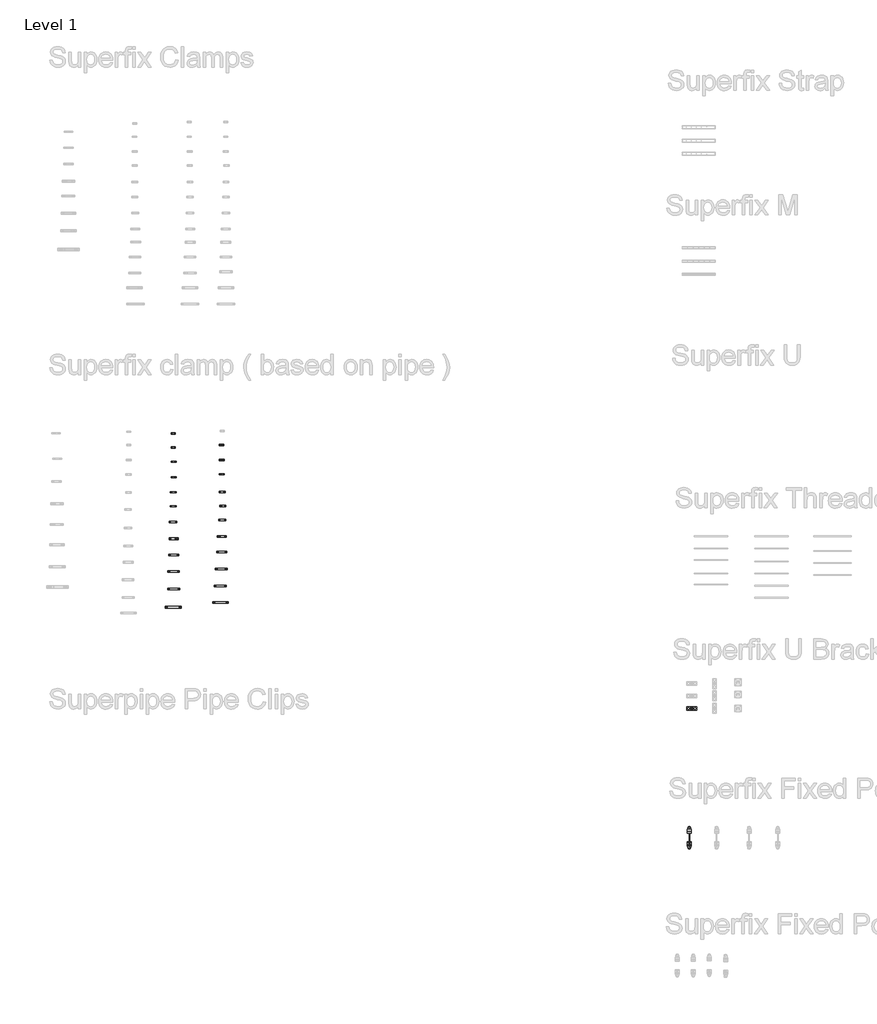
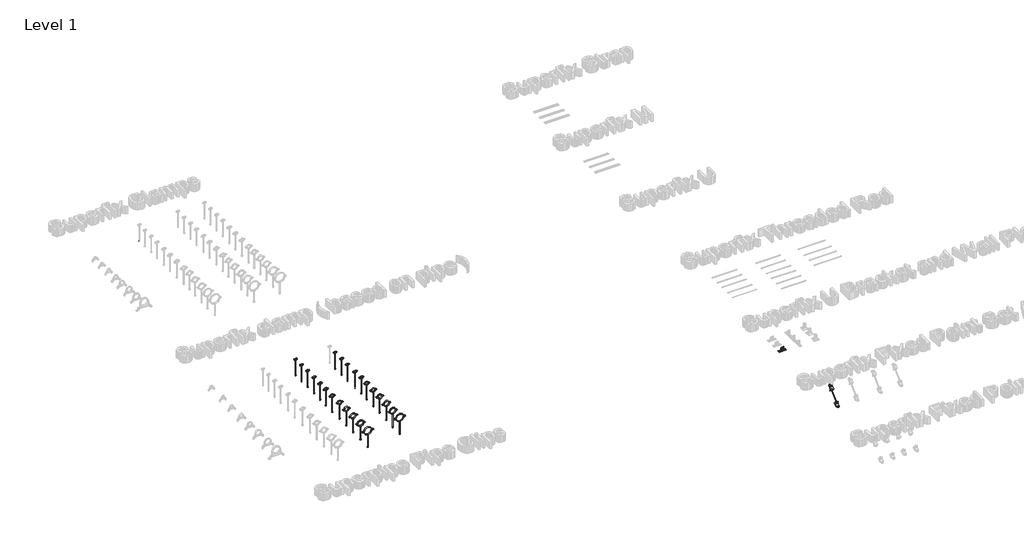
# One storey, part 3 of 32: 140 valves.
"""IFC4 building model written with IfcOpenShell, lengths in millimetres."""

from ifc_helpers import new_model, si_unit, origin, place, context, project, spatial, transform, mapped, element, save
from components import valve_ba4c3353, valve_b86718a5, valve_709cda98, valve_84d33304, valve_ec993703, valve_f37b9a3f, valve_5bac2775, valve_0b170f44, valve_48b51991, valve_4bb747ad, valve_94420c43, valve_e243e0e9, valve_dc8f52aa, valve_8481dcae, valve_a1d0c0c7, valve_bad40d89, valve_098a9345, valve_1406b70b, valve_9e9896a5, valve_00879f87, valve_4dfea500, valve_dfdcf4a3, valve_fad8a5b8, valve_cdfc1e77, valve_540cf7b6, valve_e615a615, valve_7771d33f, valve_f58c43d9, valve_1a4baf8e, valve_0564cfff, valve_fe5dbaab, valve_6bdfe2ac, valve_8158eccd, valve_7bf5ca46, valve_831f7485, valve_ca73bad7, hexagon_nut_galvanized_extra_m10_fcef541f, hexagon_nut_galvanized_extra_m8_53389388, superfix_u_bracket_h_f60a1122, threaded_rod_used_for_fixed_point_sets_86a65fc8

model = new_model("IFC4")

# Units and contexts
model_context = context("Model", 3, world=origin())
ifc_project = project(units=[si_unit("LENGTHUNIT", "METRE", prefix="MILLI")], contexts=[model_context])

# Site, building, storey
site = spatial("IfcSite", under=ifc_project)
building = spatial("IfcBuilding", under=site)
storey = spatial("IfcBuildingStorey", under=building, Name="Level 1", Elevation=0.0)

# Valves
placement = place(None, origin())
valve_shape = valve_ba4c3353(model_context)
element("IfcValve", 1, ObjectType="Superfix Fixed point set : Superfix Fixed Point Set M8", at=placement, inside=storey, context=model_context, shape_type="MappedRepresentation", body=[
    mapped(valve_shape, transform((-40199.0810476, 17766.6061547, 0.0), x_axis=(1.0, 0.0, 0.0), y_axis=(0.0, 1.0, 0.0), z_axis=(0.0, 0.0, 1.0))),
])
valve_2_shape = valve_b86718a5(model_context)
element("IfcValve", 2, ObjectType="Superfix DG2 Clamp Extra (based on pipe) : Superfix DG2 Clamp Extra (based on pipe)", at=placement, inside=storey, context=model_context, shape_type="MappedRepresentation", body=[
    mapped(valve_2_shape, transform((-47919.363944, 23963.275395, -358.5002332), x_axis=(0.0, -1.0, 0.0), y_axis=(1.0, 0.0, 0.0), z_axis=(0.0, 0.0, 1.0))),
])
valve_3_shape = valve_709cda98(model_context)
element("IfcValve", 3, ObjectType="Superfix DG2 Clamp Extra (based on pipe) : Superfix DG2 Clamp Extra (based on pipe)", at=placement, inside=storey, context=model_context, shape_type="MappedRepresentation", body=[
    mapped(valve_3_shape, transform((-47919.363944, 23753.2439871, -358.5002332), x_axis=(0.0, -1.0, 0.0), y_axis=(1.0, 0.0, 0.0), z_axis=(0.0, 0.0, 1.0))),
])
valve_4_shape = valve_84d33304(model_context)
element("IfcValve", 4, ObjectType="Superfix DG2 Clamp Extra (based on pipe) : Superfix DG2 Clamp Extra (based on pipe)", at=placement, inside=storey, context=model_context, shape_type="MappedRepresentation", body=[
    mapped(valve_4_shape, transform((-47914.2412267, 23538.089862, -358.5002332), x_axis=(0.0, -1.0, 0.0), y_axis=(1.0, 0.0, 0.0), z_axis=(0.0, 0.0, 1.0))),
])
valve_5_shape = valve_ec993703(model_context)
element("IfcValve", 5, ObjectType="Superfix DG2 Clamp Extra (based on pipe) : Superfix DG2 Clamp Extra (based on pipe)", at=placement, inside=storey, context=model_context, shape_type="MappedRepresentation", body=[
    mapped(valve_5_shape, transform((-47914.2412267, 23307.567585, -358.5002332), x_axis=(0.0, -1.0, 0.0), y_axis=(1.0, 0.0, 0.0), z_axis=(0.0, 0.0, 1.0))),
])
valve_6_shape = valve_f37b9a3f(model_context)
element("IfcValve", 6, ObjectType="Superfix DG2 Clamp Extra (based on pipe) : Superfix DG2 Clamp Extra (based on pipe)", at=placement, inside=storey, context=model_context, shape_type="MappedRepresentation", body=[
    mapped(valve_6_shape, transform((-47919.363944, 23082.1680253, -358.5002332), x_axis=(0.0, -1.0, 0.0), y_axis=(1.0, 0.0, 0.0), z_axis=(0.0, 0.0, 1.0))),
])
valve_7_shape = valve_5bac2775(model_context)
element("IfcValve", 7, ObjectType="Superfix DG2 Clamp Extra (based on pipe) : Superfix DG2 Clamp Extra (based on pipe)", at=placement, inside=storey, context=model_context, shape_type="MappedRepresentation", body=[
    mapped(valve_7_shape, transform((-47919.363944, 22872.1366174, -358.5002332), x_axis=(0.0, -1.0, 0.0), y_axis=(1.0, 0.0, 0.0), z_axis=(0.0, 0.0, 1.0))),
])
valve_8_shape = valve_0b170f44(model_context)
element("IfcValve", 8, ObjectType="Superfix DG2 Clamp Extra (based on pipe) : Superfix DG2 Clamp Extra (based on pipe)", at=placement, inside=storey, context=model_context, shape_type="MappedRepresentation", body=[
    mapped(valve_8_shape, transform((-47924.4866613, 22636.4916232, -358.5002332), x_axis=(0.0, -1.0, 0.0), y_axis=(1.0, 0.0, 0.0), z_axis=(0.0, 0.0, 1.0))),
])
valve_9_shape = valve_48b51991(model_context)
element("IfcValve", 9, ObjectType="Superfix DG2 Clamp Extra (based on pipe) : Superfix DG2 Clamp Extra (based on pipe)", at=placement, inside=storey, context=model_context, shape_type="MappedRepresentation", body=[
    mapped(valve_9_shape, transform((-47914.2412267, 22385.4784771, -358.5002332), x_axis=(0.0, -1.0, 0.0), y_axis=(1.0, 0.0, 0.0), z_axis=(0.0, 0.0, 1.0))),
])
valve_10_shape = valve_4bb747ad(model_context)
element("IfcValve", 10, ObjectType="Superfix DG2 Clamp Extra (based on pipe) : Superfix DG2 Clamp Extra (based on pipe)", at=placement, inside=storey, context=model_context, shape_type="MappedRepresentation", body=[
    mapped(valve_10_shape, transform((-47914.2412267, 22144.7107656, -358.5002332), x_axis=(0.0, -1.0, 0.0), y_axis=(1.0, 0.0, 0.0), z_axis=(0.0, 0.0, 1.0))),
])
valve_11_shape = valve_94420c43(model_context)
element("IfcValve", 11, ObjectType="Superfix DG2 Clamp Extra (based on pipe) : Superfix DG2 Clamp Extra (based on pipe)", at=placement, inside=storey, context=model_context, shape_type="MappedRepresentation", body=[
    mapped(valve_11_shape, transform((-47914.2412267, 21898.8203369, -358.5002332), x_axis=(0.0, -1.0, 0.0), y_axis=(1.0, 0.0, 0.0), z_axis=(0.0, 0.0, 1.0))),
])
valve_12_shape = valve_e243e0e9(model_context)
element("IfcValve", 12, ObjectType="Superfix DG2 Clamp Extra (based on pipe) : Superfix DG2 Clamp Extra (based on pipe)", at=placement, inside=storey, context=model_context, shape_type="MappedRepresentation", body=[
    mapped(valve_12_shape, transform((-47914.2412267, 21632.4390391, -358.5002332), x_axis=(0.0, -1.0, 0.0), y_axis=(1.0, 0.0, 0.0), z_axis=(0.0, 0.0, 1.0))),
])
valve_13_shape = valve_dc8f52aa(model_context)
element("IfcValve", 13, ObjectType="Superfix DG2 Clamp Extra (based on pipe) : Superfix DG2 Clamp Extra (based on pipe)", at=placement, inside=storey, context=model_context, shape_type="MappedRepresentation", body=[
    mapped(valve_13_shape, transform((-47919.363944, 21360.935024, -358.5002332), x_axis=(0.0, -1.0, 0.0), y_axis=(1.0, 0.0, 0.0), z_axis=(0.0, 0.0, 1.0))),
])
valve_14_shape = valve_8481dcae(model_context)
element("IfcValve", 14, ObjectType="Superfix DG2 Clamp Extra + (based on pipe) : Superfix DG2 Clamp Extra + (based on pipe)", at=placement, inside=storey, context=model_context, shape_type="MappedRepresentation", body=[
    mapped(valve_14_shape, transform((-47197.9786465, 23786.9728971, -358.5002332), x_axis=(0.0, -1.0, 0.0), y_axis=(1.0, 0.0, 0.0), z_axis=(0.0, 0.0, 1.0))),
])
valve_15_shape = valve_a1d0c0c7(model_context)
element("IfcValve", 15, ObjectType="Superfix DG2 Clamp Extra + (based on pipe) : Superfix DG2 Clamp Extra + (based on pipe)", at=placement, inside=storey, context=model_context, shape_type="MappedRepresentation", body=[
    mapped(valve_15_shape, transform((-47193.3467671, 23564.6426855, -358.5002332), x_axis=(0.0, -1.0, 0.0), y_axis=(1.0, 0.0, 0.0), z_axis=(0.0, 0.0, 1.0))),
])
valve_16_shape = valve_bad40d89(model_context)
element("IfcValve", 16, ObjectType="Superfix DG2 Clamp Extra + (based on pipe) : Superfix DG2 Clamp Extra + (based on pipe)", at=placement, inside=storey, context=model_context, shape_type="MappedRepresentation", body=[
    mapped(valve_16_shape, transform((-47193.3467671, 23351.5762328, -358.5002332), x_axis=(0.0, -1.0, 0.0), y_axis=(1.0, 0.0, 0.0), z_axis=(0.0, 0.0, 1.0))),
])
valve_17_shape = valve_098a9345(model_context)
element("IfcValve", 17, ObjectType="Superfix DG2 Clamp Extra + (based on pipe) : Superfix DG2 Clamp Extra + (based on pipe)", at=placement, inside=storey, context=model_context, shape_type="MappedRepresentation", body=[
    mapped(valve_17_shape, transform((-47188.7148877, 23087.5591065, -358.5002332), x_axis=(0.0, -1.0, 0.0), y_axis=(1.0, 0.0, 0.0), z_axis=(0.0, 0.0, 1.0))),
])
valve_18_shape = valve_1406b70b(model_context)
element("IfcValve", 18, ObjectType="Superfix DG2 Clamp Extra + (based on pipe) : Superfix DG2 Clamp Extra + (based on pipe)", at=placement, inside=storey, context=model_context, shape_type="MappedRepresentation", body=[
    mapped(valve_18_shape, transform((-47179.4511288, 22874.4926537, -358.5002332), x_axis=(0.0, -1.0, 0.0), y_axis=(1.0, 0.0, 0.0), z_axis=(0.0, 0.0, 1.0))),
])
valve_19_shape = valve_9e9896a5(model_context)
element("IfcValve", 19, ObjectType="Superfix DG2 Clamp Extra + (based on pipe) : Superfix DG2 Clamp Extra + (based on pipe)", at=placement, inside=storey, context=model_context, shape_type="MappedRepresentation", body=[
    mapped(valve_19_shape, transform((-47188.7148877, 22666.0580804, -358.5002332), x_axis=(0.0, -1.0, 0.0), y_axis=(1.0, 0.0, 0.0), z_axis=(0.0, 0.0, 1.0))),
])
element("IfcValve", 20, ObjectType="Superfix DG2 Clamp Extra + (based on pipe) : Superfix DG2 Clamp Extra + (based on pipe)", at=placement, inside=storey, context=model_context, shape_type="MappedRepresentation", body=[
    mapped(valve_9_shape, transform((-47193.3467671, 22420.5684717, -358.5002332), x_axis=(0.0, -1.0, 0.0), y_axis=(1.0, 0.0, 0.0), z_axis=(0.0, 0.0, 1.0))),
])
element("IfcValve", 21, ObjectType="Superfix DG2 Clamp Extra + (based on pipe) : Superfix DG2 Clamp Extra + (based on pipe)", at=placement, inside=storey, context=model_context, shape_type="MappedRepresentation", body=[
    mapped(valve_10_shape, transform((-47193.3467671, 22188.9745013, -358.5002332), x_axis=(0.0, -1.0, 0.0), y_axis=(1.0, 0.0, 0.0), z_axis=(0.0, 0.0, 1.0))),
])
valve_20_shape = valve_00879f87(model_context)
element("IfcValve", 22, ObjectType="Superfix DG2 Clamp Extra + (based on pipe) : Superfix DG2 Clamp Extra + (based on pipe)", at=placement, inside=storey, context=model_context, shape_type="MappedRepresentation", body=[
    mapped(valve_20_shape, transform((-47202.6105259, 21934.2211339, -358.5002332), x_axis=(0.0, -1.0, 0.0), y_axis=(1.0, 0.0, 0.0), z_axis=(0.0, 0.0, 1.0))),
])
valve_21_shape = valve_4dfea500(model_context)
element("IfcValve", 23, ObjectType="Superfix DG2 Clamp Extra + (based on pipe) : Superfix DG2 Clamp Extra + (based on pipe)", at=placement, inside=storey, context=model_context, shape_type="MappedRepresentation", body=[
    mapped(valve_21_shape, transform((-47216.5061641, 21679.4677664, -358.5002332), x_axis=(0.0, -1.0, 0.0), y_axis=(1.0, 0.0, 0.0), z_axis=(0.0, 0.0, 1.0))),
])
valve_22_shape = valve_dfdcf4a3(model_context)
element("IfcValve", 24, ObjectType="Superfix DG2 Clamp Extra + (based on pipe) : Superfix DG2 Clamp Extra + (based on pipe)", at=placement, inside=storey, context=model_context, shape_type="MappedRepresentation", body=[
    mapped(valve_22_shape, transform((-47211.8742847, 21433.9781578, -358.5002332), x_axis=(0.0, -1.0, 0.0), y_axis=(1.0, 0.0, 0.0), z_axis=(0.0, 0.0, 1.0))),
])
valve_23_shape = valve_fad8a5b8(model_context)
element("IfcValve", 25, ObjectType="Superfix Flat Washer : Superfix Flat Washer M8x15x1.5", at=placement, inside=storey, context=model_context, shape_type="MappedRepresentation", body=[
    mapped(valve_23_shape, transform((-48498.0930125, 28600.0305157, -1.6), x_axis=(0.0, 1.0, 0.0), y_axis=(-1.0, 0.0, 0.0), z_axis=(0.0, 0.0, 1.0))),
])
element("IfcValve", 26, ObjectType="Superfix Flat Washer : Superfix Flat Washer Extra M8x15x1.5", at=placement, inside=storey, context=model_context, shape_type="MappedRepresentation", body=[
    mapped(valve_23_shape, transform((-47919.363944, 23963.275395, -355.1002332), x_axis=(1.0, 0.0, 0.0), y_axis=(0.0, 1.0, 0.0), z_axis=(0.0, 0.0, 1.0))),
])
element("IfcValve", 27, ObjectType="Superfix Flat Washer : Superfix Flat Washer Extra M8x15x1.5", at=placement, inside=storey, context=model_context, shape_type="MappedRepresentation", body=[
    mapped(valve_23_shape, transform((-47919.363944, 23963.275395, -360.1002332), x_axis=(1.0, 0.0, 0.0), y_axis=(0.0, 1.0, 0.0), z_axis=(0.0, 0.0, 1.0))),
])
element("IfcValve", 28, ObjectType="Superfix Flat Washer : Superfix Flat Washer Extra M8x15x1.5", at=placement, inside=storey, context=model_context, shape_type="MappedRepresentation", body=[
    mapped(valve_23_shape, transform((-47919.363944, 23753.2439871, -355.1002332), x_axis=(1.0, 0.0, 0.0), y_axis=(0.0, 1.0, 0.0), z_axis=(0.0, 0.0, 1.0))),
])
element("IfcValve", 29, ObjectType="Superfix Flat Washer : Superfix Flat Washer Extra M8x15x1.5", at=placement, inside=storey, context=model_context, shape_type="MappedRepresentation", body=[
    mapped(valve_23_shape, transform((-47919.363944, 23753.2439871, -360.1002332), x_axis=(1.0, 0.0, 0.0), y_axis=(0.0, 1.0, 0.0), z_axis=(0.0, 0.0, 1.0))),
])
element("IfcValve", 30, ObjectType="Superfix Flat Washer : Superfix Flat Washer Extra M8x15x1.5", at=placement, inside=storey, context=model_context, shape_type="MappedRepresentation", body=[
    mapped(valve_23_shape, transform((-47914.2412267, 23538.089862, -355.1002332), x_axis=(1.0, 0.0, 0.0), y_axis=(0.0, 1.0, 0.0), z_axis=(0.0, 0.0, 1.0))),
])
element("IfcValve", 31, ObjectType="Superfix Flat Washer : Superfix Flat Washer Extra M8x15x1.5", at=placement, inside=storey, context=model_context, shape_type="MappedRepresentation", body=[
    mapped(valve_23_shape, transform((-47914.2412267, 23538.089862, -360.1002332), x_axis=(1.0, 0.0, 0.0), y_axis=(0.0, 1.0, 0.0), z_axis=(0.0, 0.0, 1.0))),
])
element("IfcValve", 32, ObjectType="Superfix Flat Washer : Superfix Flat Washer Extra M8x15x1.5", at=placement, inside=storey, context=model_context, shape_type="MappedRepresentation", body=[
    mapped(valve_23_shape, transform((-47914.2412267, 23307.567585, -355.1002332), x_axis=(1.0, 0.0, 0.0), y_axis=(0.0, 1.0, 0.0), z_axis=(0.0, 0.0, 1.0))),
])
element("IfcValve", 33, ObjectType="Superfix Flat Washer : Superfix Flat Washer Extra M8x15x1.5", at=placement, inside=storey, context=model_context, shape_type="MappedRepresentation", body=[
    mapped(valve_23_shape, transform((-47914.2412267, 23307.567585, -360.1002332), x_axis=(1.0, 0.0, 0.0), y_axis=(0.0, 1.0, 0.0), z_axis=(0.0, 0.0, 1.0))),
])
element("IfcValve", 34, ObjectType="Superfix Flat Washer : Superfix Flat Washer Extra M8x15x1.5", at=placement, inside=storey, context=model_context, shape_type="MappedRepresentation", body=[
    mapped(valve_23_shape, transform((-47919.363944, 23082.1680253, -355.1002332), x_axis=(1.0, 0.0, 0.0), y_axis=(0.0, 1.0, 0.0), z_axis=(0.0, 0.0, 1.0))),
])
element("IfcValve", 35, ObjectType="Superfix Flat Washer : Superfix Flat Washer Extra M8x15x1.5", at=placement, inside=storey, context=model_context, shape_type="MappedRepresentation", body=[
    mapped(valve_23_shape, transform((-47919.363944, 23082.1680253, -360.1002332), x_axis=(1.0, 0.0, 0.0), y_axis=(0.0, 1.0, 0.0), z_axis=(0.0, 0.0, 1.0))),
])
element("IfcValve", 36, ObjectType="Superfix Flat Washer : Superfix Flat Washer Extra M8x15x1.5", at=placement, inside=storey, context=model_context, shape_type="MappedRepresentation", body=[
    mapped(valve_23_shape, transform((-47919.363944, 22872.1366174, -355.1002332), x_axis=(1.0, 0.0, 0.0), y_axis=(0.0, 1.0, 0.0), z_axis=(0.0, 0.0, 1.0))),
])
element("IfcValve", 37, ObjectType="Superfix Flat Washer : Superfix Flat Washer Extra M8x15x1.5", at=placement, inside=storey, context=model_context, shape_type="MappedRepresentation", body=[
    mapped(valve_23_shape, transform((-47919.363944, 22872.1366174, -360.1002332), x_axis=(1.0, 0.0, 0.0), y_axis=(0.0, 1.0, 0.0), z_axis=(0.0, 0.0, 1.0))),
])
valve_24_shape = valve_cdfc1e77(model_context)
element("IfcValve", 38, ObjectType="Superfix Flat Washer : Superfix Flat Washer EXtra M10x20x1.5", at=placement, inside=storey, context=model_context, shape_type="MappedRepresentation", body=[
    mapped(valve_24_shape, transform((-47924.4866613, 22636.4916232, -355.5002332), x_axis=(1.0, 0.0, 0.0), y_axis=(0.0, 1.0, 0.0), z_axis=(0.0, 0.0, 1.0))),
])
element("IfcValve", 39, ObjectType="Superfix Flat Washer : Superfix Flat Washer EXtra M10x20x1.5", at=placement, inside=storey, context=model_context, shape_type="MappedRepresentation", body=[
    mapped(valve_24_shape, transform((-47924.4866613, 22636.4916232, -360.5002332), x_axis=(1.0, 0.0, 0.0), y_axis=(0.0, 1.0, 0.0), z_axis=(0.0, 0.0, 1.0))),
])
element("IfcValve", 40, ObjectType="Superfix Flat Washer : Superfix Flat Washer EXtra M10x20x1.5", at=placement, inside=storey, context=model_context, shape_type="MappedRepresentation", body=[
    mapped(valve_24_shape, transform((-47914.2412267, 22385.4784771, -355.5002332), x_axis=(1.0, 0.0, 0.0), y_axis=(0.0, 1.0, 0.0), z_axis=(0.0, 0.0, 1.0))),
])
element("IfcValve", 41, ObjectType="Superfix Flat Washer : Superfix Flat Washer EXtra M10x20x1.5", at=placement, inside=storey, context=model_context, shape_type="MappedRepresentation", body=[
    mapped(valve_24_shape, transform((-47914.2412267, 22385.4784771, -360.5002332), x_axis=(1.0, 0.0, 0.0), y_axis=(0.0, 1.0, 0.0), z_axis=(0.0, 0.0, 1.0))),
])
element("IfcValve", 42, ObjectType="Superfix Flat Washer : Superfix Flat Washer EXtra M10x20x1.5", at=placement, inside=storey, context=model_context, shape_type="MappedRepresentation", body=[
    mapped(valve_24_shape, transform((-47914.2412267, 22144.7107656, -355.5002332), x_axis=(1.0, 0.0, 0.0), y_axis=(0.0, 1.0, 0.0), z_axis=(0.0, 0.0, 1.0))),
])
element("IfcValve", 43, ObjectType="Superfix Flat Washer : Superfix Flat Washer EXtra M10x20x1.5", at=placement, inside=storey, context=model_context, shape_type="MappedRepresentation", body=[
    mapped(valve_24_shape, transform((-47914.2412267, 22144.7107656, -360.5002332), x_axis=(1.0, 0.0, 0.0), y_axis=(0.0, 1.0, 0.0), z_axis=(0.0, 0.0, 1.0))),
])
element("IfcValve", 44, ObjectType="Superfix Flat Washer : Superfix Flat Washer EXtra M10x20x1.5", at=placement, inside=storey, context=model_context, shape_type="MappedRepresentation", body=[
    mapped(valve_24_shape, transform((-47914.2412267, 21898.8203369, -355.5002332), x_axis=(1.0, 0.0, 0.0), y_axis=(0.0, 1.0, 0.0), z_axis=(0.0, 0.0, 1.0))),
])
element("IfcValve", 45, ObjectType="Superfix Flat Washer : Superfix Flat Washer EXtra M10x20x1.5", at=placement, inside=storey, context=model_context, shape_type="MappedRepresentation", body=[
    mapped(valve_24_shape, transform((-47914.2412267, 21898.8203369, -360.5002332), x_axis=(1.0, 0.0, 0.0), y_axis=(0.0, 1.0, 0.0), z_axis=(0.0, 0.0, 1.0))),
])
element("IfcValve", 46, ObjectType="Superfix Flat Washer : Superfix Flat Washer EXtra M10x20x1.5", at=placement, inside=storey, context=model_context, shape_type="MappedRepresentation", body=[
    mapped(valve_24_shape, transform((-47914.2412267, 21632.4390391, -355.5002332), x_axis=(1.0, 0.0, 0.0), y_axis=(0.0, 1.0, 0.0), z_axis=(0.0, 0.0, 1.0))),
])
element("IfcValve", 47, ObjectType="Superfix Flat Washer : Superfix Flat Washer EXtra M10x20x1.5", at=placement, inside=storey, context=model_context, shape_type="MappedRepresentation", body=[
    mapped(valve_24_shape, transform((-47914.2412267, 21632.4390391, -360.5002332), x_axis=(1.0, 0.0, 0.0), y_axis=(0.0, 1.0, 0.0), z_axis=(0.0, 0.0, 1.0))),
])
element("IfcValve", 48, ObjectType="Superfix Flat Washer : Superfix Flat Washer EXtra M10x20x1.5", at=placement, inside=storey, context=model_context, shape_type="MappedRepresentation", body=[
    mapped(valve_24_shape, transform((-47919.363944, 21360.935024, -355.5002332), x_axis=(1.0, 0.0, 0.0), y_axis=(0.0, 1.0, 0.0), z_axis=(0.0, 0.0, 1.0))),
])
element("IfcValve", 49, ObjectType="Superfix Flat Washer : Superfix Flat Washer EXtra M10x20x1.5", at=placement, inside=storey, context=model_context, shape_type="MappedRepresentation", body=[
    mapped(valve_24_shape, transform((-47919.363944, 21360.935024, -360.5002332), x_axis=(1.0, 0.0, 0.0), y_axis=(0.0, 1.0, 0.0), z_axis=(0.0, 0.0, 1.0))),
])
element("IfcValve", 50, ObjectType="Superfix Flat Washer : Superfix Flat Washer Extra +  M8x15x1.5", at=placement, inside=storey, context=model_context, shape_type="MappedRepresentation", body=[
    mapped(valve_23_shape, transform((-47197.9786465, 23786.9728971, -360.1002332), x_axis=(1.0, 0.0, 0.0), y_axis=(0.0, 1.0, 0.0), z_axis=(0.0, 0.0, 1.0))),
])
element("IfcValve", 51, ObjectType="Superfix Flat Washer : Superfix Flat Washer Extra +  M8x15x1.5", at=placement, inside=storey, context=model_context, shape_type="MappedRepresentation", body=[
    mapped(valve_23_shape, transform((-47197.9786465, 23786.9728971, -353.5002332), x_axis=(1.0, 0.0, 0.0), y_axis=(0.0, 1.0, 0.0), z_axis=(0.0, 0.0, 1.0))),
])
element("IfcValve", 52, ObjectType="Superfix Flat Washer : Superfix Flat Washer Extra +  M8x15x1.5", at=placement, inside=storey, context=model_context, shape_type="MappedRepresentation", body=[
    mapped(valve_23_shape, transform((-47193.3467671, 23564.6426855, -360.1002332), x_axis=(1.0, 0.0, 0.0), y_axis=(0.0, 1.0, 0.0), z_axis=(0.0, 0.0, 1.0))),
])
element("IfcValve", 53, ObjectType="Superfix Flat Washer : Superfix Flat Washer Extra +  M8x15x1.5", at=placement, inside=storey, context=model_context, shape_type="MappedRepresentation", body=[
    mapped(valve_23_shape, transform((-47193.3467671, 23564.6426855, -353.5002332), x_axis=(1.0, 0.0, 0.0), y_axis=(0.0, 1.0, 0.0), z_axis=(0.0, 0.0, 1.0))),
])
element("IfcValve", 54, ObjectType="Superfix Flat Washer : Superfix Flat Washer Extra +  M8x15x1.5", at=placement, inside=storey, context=model_context, shape_type="MappedRepresentation", body=[
    mapped(valve_23_shape, transform((-47193.3467671, 23351.5762328, -360.1002332), x_axis=(1.0, 0.0, 0.0), y_axis=(0.0, 1.0, 0.0), z_axis=(0.0, 0.0, 1.0))),
])
element("IfcValve", 55, ObjectType="Superfix Flat Washer : Superfix Flat Washer Extra +  M8x15x1.5", at=placement, inside=storey, context=model_context, shape_type="MappedRepresentation", body=[
    mapped(valve_23_shape, transform((-47193.3467671, 23351.5762328, -353.5002332), x_axis=(1.0, 0.0, 0.0), y_axis=(0.0, 1.0, 0.0), z_axis=(0.0, 0.0, 1.0))),
])
element("IfcValve", 56, ObjectType="Superfix Flat Washer : Superfix Flat Washer Extra +  M8x15x1.5", at=placement, inside=storey, context=model_context, shape_type="MappedRepresentation", body=[
    mapped(valve_23_shape, transform((-47179.4511288, 22874.4926537, -360.1002332), x_axis=(1.0, 0.0, 0.0), y_axis=(0.0, 1.0, 0.0), z_axis=(0.0, 0.0, 1.0))),
])
element("IfcValve", 57, ObjectType="Superfix Flat Washer : Superfix Flat Washer Extra +  M8x15x1.5", at=placement, inside=storey, context=model_context, shape_type="MappedRepresentation", body=[
    mapped(valve_23_shape, transform((-47179.4511288, 22874.4926537, -353.5002332), x_axis=(1.0, 0.0, 0.0), y_axis=(0.0, 1.0, 0.0), z_axis=(0.0, 0.0, 1.0))),
])
element("IfcValve", 58, ObjectType="Superfix Flat Washer : Superfix Flat Washer EXtra +  M10x20x1.5", at=placement, inside=storey, context=model_context, shape_type="MappedRepresentation", body=[
    mapped(valve_24_shape, transform((-47188.7148877, 22666.0580804, -360.5002332), x_axis=(1.0, 0.0, 0.0), y_axis=(0.0, 1.0, 0.0), z_axis=(0.0, 0.0, 1.0))),
])
element("IfcValve", 59, ObjectType="Superfix Flat Washer : Superfix Flat Washer EXtra +  M10x20x1.5", at=placement, inside=storey, context=model_context, shape_type="MappedRepresentation", body=[
    mapped(valve_24_shape, transform((-47188.7148877, 22666.0580804, -353.5002332), x_axis=(1.0, 0.0, 0.0), y_axis=(0.0, 1.0, 0.0), z_axis=(0.0, 0.0, 1.0))),
])
element("IfcValve", 60, ObjectType="Superfix Flat Washer : Superfix Flat Washer EXtra +  M10x20x1.5", at=placement, inside=storey, context=model_context, shape_type="MappedRepresentation", body=[
    mapped(valve_24_shape, transform((-47193.3467671, 22420.5684717, -360.5002332), x_axis=(1.0, 0.0, 0.0), y_axis=(0.0, 1.0, 0.0), z_axis=(0.0, 0.0, 1.0))),
])
element("IfcValve", 61, ObjectType="Superfix Flat Washer : Superfix Flat Washer EXtra +  M10x20x1.5", at=placement, inside=storey, context=model_context, shape_type="MappedRepresentation", body=[
    mapped(valve_24_shape, transform((-47193.3467671, 22420.5684717, -353.5002332), x_axis=(1.0, 0.0, 0.0), y_axis=(0.0, 1.0, 0.0), z_axis=(0.0, 0.0, 1.0))),
])
element("IfcValve", 62, ObjectType="Superfix Flat Washer : Superfix Flat Washer EXtra +  M10x20x1.5", at=placement, inside=storey, context=model_context, shape_type="MappedRepresentation", body=[
    mapped(valve_24_shape, transform((-47193.3467671, 22188.9745013, -360.5002332), x_axis=(1.0, 0.0, 0.0), y_axis=(0.0, 1.0, 0.0), z_axis=(0.0, 0.0, 1.0))),
])
element("IfcValve", 63, ObjectType="Superfix Flat Washer : Superfix Flat Washer EXtra +  M10x20x1.5", at=placement, inside=storey, context=model_context, shape_type="MappedRepresentation", body=[
    mapped(valve_24_shape, transform((-47193.3467671, 22188.9745013, -353.5002332), x_axis=(1.0, 0.0, 0.0), y_axis=(0.0, 1.0, 0.0), z_axis=(0.0, 0.0, 1.0))),
])
element("IfcValve", 64, ObjectType="Superfix Flat Washer : Superfix Flat Washer EXtra +  M10x20x1.5", at=placement, inside=storey, context=model_context, shape_type="MappedRepresentation", body=[
    mapped(valve_24_shape, transform((-47202.6105259, 21934.2211339, -360.5002332), x_axis=(1.0, 0.0, 0.0), y_axis=(0.0, 1.0, 0.0), z_axis=(0.0, 0.0, 1.0))),
])
element("IfcValve", 65, ObjectType="Superfix Flat Washer : Superfix Flat Washer EXtra +  M10x20x1.5", at=placement, inside=storey, context=model_context, shape_type="MappedRepresentation", body=[
    mapped(valve_24_shape, transform((-47202.6105259, 21934.2211339, -353.5002332), x_axis=(1.0, 0.0, 0.0), y_axis=(0.0, 1.0, 0.0), z_axis=(0.0, 0.0, 1.0))),
])
element("IfcValve", 66, ObjectType="Superfix Flat Washer : Superfix Flat Washer EXtra +  M10x20x1.5", at=placement, inside=storey, context=model_context, shape_type="MappedRepresentation", body=[
    mapped(valve_24_shape, transform((-47216.5061641, 21679.4677664, -360.5002332), x_axis=(1.0, 0.0, 0.0), y_axis=(0.0, 1.0, 0.0), z_axis=(0.0, 0.0, 1.0))),
])
element("IfcValve", 67, ObjectType="Superfix Flat Washer : Superfix Flat Washer EXtra +  M10x20x1.5", at=placement, inside=storey, context=model_context, shape_type="MappedRepresentation", body=[
    mapped(valve_24_shape, transform((-47216.5061641, 21679.4677664, -353.5002332), x_axis=(1.0, 0.0, 0.0), y_axis=(0.0, 1.0, 0.0), z_axis=(0.0, 0.0, 1.0))),
])
element("IfcValve", 68, ObjectType="Superfix Flat Washer : Superfix Flat Washer EXtra +  M10x20x1.5", at=placement, inside=storey, context=model_context, shape_type="MappedRepresentation", body=[
    mapped(valve_24_shape, transform((-47211.8742847, 21433.9781578, -360.5002332), x_axis=(1.0, 0.0, 0.0), y_axis=(0.0, 1.0, 0.0), z_axis=(0.0, 0.0, 1.0))),
])
element("IfcValve", 69, ObjectType="Superfix Flat Washer : Superfix Flat Washer EXtra +  M10x20x1.5", at=placement, inside=storey, context=model_context, shape_type="MappedRepresentation", body=[
    mapped(valve_24_shape, transform((-47211.8742847, 21433.9781578, -353.5002332), x_axis=(1.0, 0.0, 0.0), y_axis=(0.0, 1.0, 0.0), z_axis=(0.0, 0.0, 1.0))),
])
valve_25_shape = valve_540cf7b6(model_context)
element("IfcValve", 70, ObjectType="Superfix Threaded Rod (used for clamps) : Threaded Rod  Extra  - 1000 mm (used for clamps)", at=placement, inside=storey, context=model_context, shape_type="MappedRepresentation", body=[
    mapped(valve_25_shape, transform((-47919.363944, 23963.275395, -358.5002332), x_axis=(0.0, 0.0, 1.0), y_axis=(-1.0, 0.0, 0.0), z_axis=(0.0, -1.0, 0.0))),
])
valve_26_shape = valve_e615a615(model_context)
element("IfcValve", 71, ObjectType="Superfix Threaded Rod (used for clamps) : Threaded Rod  Extra  - 1000 mm (used for clamps)", at=placement, inside=storey, context=model_context, shape_type="MappedRepresentation", body=[
    mapped(valve_26_shape, transform((-47919.363944, 23753.2439871, -358.5002332), x_axis=(0.0, 0.0, 1.0), y_axis=(-1.0, 0.0, 0.0), z_axis=(0.0, -1.0, 0.0))),
])
valve_27_shape = valve_7771d33f(model_context)
element("IfcValve", 72, ObjectType="Superfix Threaded Rod (used for clamps) : Threaded Rod  Extra  - 1000 mm (used for clamps)", at=placement, inside=storey, context=model_context, shape_type="MappedRepresentation", body=[
    mapped(valve_27_shape, transform((-47914.2412267, 23538.089862, -358.5002332), x_axis=(0.0, 0.0, 1.0), y_axis=(-1.0, 0.0, 0.0), z_axis=(0.0, -1.0, 0.0))),
])
valve_28_shape = valve_f58c43d9(model_context)
element("IfcValve", 73, ObjectType="Superfix Threaded Rod (used for clamps) : Threaded Rod  Extra  - 1000 mm (used for clamps)", at=placement, inside=storey, context=model_context, shape_type="MappedRepresentation", body=[
    mapped(valve_28_shape, transform((-47914.2412267, 23307.567585, -358.5002332), x_axis=(0.0, 0.0, 1.0), y_axis=(-1.0, 0.0, 0.0), z_axis=(0.0, -1.0, 0.0))),
])
valve_29_shape = valve_1a4baf8e(model_context)
element("IfcValve", 74, ObjectType="Superfix Threaded Rod (used for clamps) : Threaded Rod  Extra  - 1000 mm (used for clamps)", at=placement, inside=storey, context=model_context, shape_type="MappedRepresentation", body=[
    mapped(valve_29_shape, transform((-47919.363944, 23082.1680253, -358.5002332), x_axis=(0.0, 0.0, 1.0), y_axis=(-1.0, 0.0, 0.0), z_axis=(0.0, -1.0, 0.0))),
])
valve_30_shape = valve_0564cfff(model_context)
element("IfcValve", 75, ObjectType="Superfix Threaded Rod (used for clamps) : Threaded Rod  Extra  - 1000 mm (used for clamps)", at=placement, inside=storey, context=model_context, shape_type="MappedRepresentation", body=[
    mapped(valve_30_shape, transform((-47919.363944, 22872.1366174, -358.5002332), x_axis=(0.0, 0.0, 1.0), y_axis=(-1.0, 0.0, 0.0), z_axis=(0.0, -1.0, 0.0))),
])
valve_31_shape = valve_fe5dbaab(model_context)
element("IfcValve", 76, ObjectType="Superfix Threaded Rod (used for clamps) : Threaded Rod  Extra  - 1000 mm (used for clamps)", at=placement, inside=storey, context=model_context, shape_type="MappedRepresentation", body=[
    mapped(valve_31_shape, transform((-47924.4866613, 22636.4916232, -358.5002332), x_axis=(0.0, 0.0, 1.0), y_axis=(-1.0, 0.0, 0.0), z_axis=(0.0, -1.0, 0.0))),
])
valve_32_shape = valve_6bdfe2ac(model_context)
element("IfcValve", 77, ObjectType="Superfix Threaded Rod (used for clamps) : Threaded Rod  Extra  - 1000 mm (used for clamps)", at=placement, inside=storey, context=model_context, shape_type="MappedRepresentation", body=[
    mapped(valve_32_shape, transform((-47914.2412267, 22385.4784771, -358.5002332), x_axis=(0.0, 0.0, 1.0), y_axis=(-1.0, 0.0, 0.0), z_axis=(0.0, -1.0, 0.0))),
])
valve_33_shape = valve_8158eccd(model_context)
element("IfcValve", 78, ObjectType="Superfix Threaded Rod (used for clamps) : Threaded Rod  Extra  - 1000 mm (used for clamps)", at=placement, inside=storey, context=model_context, shape_type="MappedRepresentation", body=[
    mapped(valve_33_shape, transform((-47914.2412267, 22144.7107656, -358.5002332), x_axis=(0.0, 0.0, 1.0), y_axis=(-1.0, 0.0, 0.0), z_axis=(0.0, -1.0, 0.0))),
])
valve_34_shape = valve_7bf5ca46(model_context)
element("IfcValve", 79, ObjectType="Superfix Threaded Rod (used for clamps) : Threaded Rod  Extra  - 1000 mm (used for clamps)", at=placement, inside=storey, context=model_context, shape_type="MappedRepresentation", body=[
    mapped(valve_34_shape, transform((-47914.2412267, 21898.8203369, -358.5002332), x_axis=(0.0, 0.0, 1.0), y_axis=(-1.0, 0.0, 0.0), z_axis=(0.0, -1.0, 0.0))),
])
valve_35_shape = valve_831f7485(model_context)
element("IfcValve", 80, ObjectType="Superfix Threaded Rod (used for clamps) : Threaded Rod  Extra  - 1000 mm (used for clamps)", at=placement, inside=storey, context=model_context, shape_type="MappedRepresentation", body=[
    mapped(valve_35_shape, transform((-47914.2412267, 21632.4390391, -358.5002332), x_axis=(0.0, 0.0, 1.0), y_axis=(-1.0, 0.0, 0.0), z_axis=(0.0, -1.0, 0.0))),
])
valve_36_shape = valve_ca73bad7(model_context)
element("IfcValve", 81, ObjectType="Superfix Threaded Rod (used for clamps) : Threaded Rod  Extra  - 1000 mm (used for clamps)", at=placement, inside=storey, context=model_context, shape_type="MappedRepresentation", body=[
    mapped(valve_36_shape, transform((-47919.363944, 21360.935024, -358.5002332), x_axis=(0.0, 0.0, 1.0), y_axis=(-1.0, 0.0, 0.0), z_axis=(0.0, -1.0, 0.0))),
])
element("IfcValve", 82, ObjectType="Superfix Threaded Rod (used for clamps) : Threaded Rod - 1000 mm (used for clamps)", at=placement, inside=storey, context=model_context, shape_type="MappedRepresentation", body=[
    mapped(valve_26_shape, transform((-47197.9786465, 23786.9728971, -358.5002332), x_axis=(0.0, 0.0, 1.0), y_axis=(-1.0, 0.0, 0.0), z_axis=(0.0, -1.0, 0.0))),
])
element("IfcValve", 83, ObjectType="Superfix Threaded Rod (used for clamps) : Threaded Rod - 1000 mm (used for clamps)", at=placement, inside=storey, context=model_context, shape_type="MappedRepresentation", body=[
    mapped(valve_27_shape, transform((-47193.3467671, 23564.6426855, -358.5002332), x_axis=(0.0, 0.0, 1.0), y_axis=(-1.0, 0.0, 0.0), z_axis=(0.0, -1.0, 0.0))),
])
element("IfcValve", 84, ObjectType="Superfix Threaded Rod (used for clamps) : Threaded Rod - 1000 mm (used for clamps)", at=placement, inside=storey, context=model_context, shape_type="MappedRepresentation", body=[
    mapped(valve_28_shape, transform((-47193.3467671, 23351.5762328, -358.5002332), x_axis=(0.0, 0.0, 1.0), y_axis=(-1.0, 0.0, 0.0), z_axis=(0.0, -1.0, 0.0))),
])
element("IfcValve", 85, ObjectType="Superfix Threaded Rod (used for clamps) : Threaded Rod - 1000 mm (used for clamps)", at=placement, inside=storey, context=model_context, shape_type="MappedRepresentation", body=[
    mapped(valve_29_shape, transform((-47188.7148877, 23087.5591065, -358.5002332), x_axis=(0.0, 0.0, 1.0), y_axis=(-1.0, 0.0, 0.0), z_axis=(0.0, -1.0, 0.0))),
])
element("IfcValve", 86, ObjectType="Superfix Threaded Rod (used for clamps) : Threaded Rod - 1000 mm (used for clamps)", at=placement, inside=storey, context=model_context, shape_type="MappedRepresentation", body=[
    mapped(valve_30_shape, transform((-47179.4511288, 22874.4926537, -358.5002332), x_axis=(0.0, 0.0, 1.0), y_axis=(-1.0, 0.0, 0.0), z_axis=(0.0, -1.0, 0.0))),
])
element("IfcValve", 87, ObjectType="Superfix Threaded Rod (used for clamps) : Threaded Rod - 1000 mm (used for clamps)", at=placement, inside=storey, context=model_context, shape_type="MappedRepresentation", body=[
    mapped(valve_31_shape, transform((-47188.7148877, 22666.0580804, -358.5002332), x_axis=(0.0, 0.0, 1.0), y_axis=(-1.0, 0.0, 0.0), z_axis=(0.0, -1.0, 0.0))),
])
element("IfcValve", 88, ObjectType="Superfix Threaded Rod (used for clamps) : Threaded Rod - 1000 mm (used for clamps)", at=placement, inside=storey, context=model_context, shape_type="MappedRepresentation", body=[
    mapped(valve_32_shape, transform((-47193.3467671, 22420.5684717, -358.5002332), x_axis=(0.0, 0.0, 1.0), y_axis=(-1.0, 0.0, 0.0), z_axis=(0.0, -1.0, 0.0))),
])
element("IfcValve", 89, ObjectType="Superfix Threaded Rod (used for clamps) : Threaded Rod - 1000 mm (used for clamps)", at=placement, inside=storey, context=model_context, shape_type="MappedRepresentation", body=[
    mapped(valve_33_shape, transform((-47193.3467671, 22188.9745013, -358.5002332), x_axis=(0.0, 0.0, 1.0), y_axis=(-1.0, 0.0, 0.0), z_axis=(0.0, -1.0, 0.0))),
])
element("IfcValve", 90, ObjectType="Superfix Threaded Rod (used for clamps) : Threaded Rod - 1000 mm (used for clamps)", at=placement, inside=storey, context=model_context, shape_type="MappedRepresentation", body=[
    mapped(valve_34_shape, transform((-47202.6105259, 21934.2211339, -358.5002332), x_axis=(0.0, 0.0, 1.0), y_axis=(-1.0, 0.0, 0.0), z_axis=(0.0, -1.0, 0.0))),
])
element("IfcValve", 91, ObjectType="Superfix Threaded Rod (used for clamps) : Threaded Rod - 1000 mm (used for clamps)", at=placement, inside=storey, context=model_context, shape_type="MappedRepresentation", body=[
    mapped(valve_35_shape, transform((-47216.5061641, 21679.4677664, -358.5002332), x_axis=(0.0, 0.0, 1.0), y_axis=(-1.0, 0.0, 0.0), z_axis=(0.0, -1.0, 0.0))),
])
element("IfcValve", 92, ObjectType="Superfix Threaded Rod (used for clamps) : Threaded Rod - 1000 mm (used for clamps)", at=placement, inside=storey, context=model_context, shape_type="MappedRepresentation", body=[
    mapped(valve_36_shape, transform((-47211.8742847, 21433.9781578, -358.5002332), x_axis=(0.0, 0.0, 1.0), y_axis=(-1.0, 0.0, 0.0), z_axis=(0.0, -1.0, 0.0))),
])
hexagon_nut_galvanized_extra_m10_shape = hexagon_nut_galvanized_extra_m10_fcef541f(model_context)
element("IfcValve", 93, ObjectType="Superfix Hexagon Nut Galvanized : Hexagon Nut Galvanized Extra + M10", at=placement, inside=storey, context=model_context, shape_type="MappedRepresentation", body=[
    mapped(hexagon_nut_galvanized_extra_m10_shape, transform((-47188.7148877, 22666.0580804, -358.5002332), x_axis=(0.0, -1.0, 0.0), y_axis=(-1.0, 0.0, 0.0), z_axis=(0.0, 0.0, -1.0))),
])
element("IfcValve", 94, ObjectType="Superfix Hexagon Nut Galvanized : Hexagon Nut Galvanized Extra + M10", at=placement, inside=storey, context=model_context, shape_type="MappedRepresentation", body=[
    mapped(hexagon_nut_galvanized_extra_m10_shape, transform((-47188.7148877, 22666.0580804, -353.5002332), x_axis=(0.0, -1.0, 0.0), y_axis=(1.0, 0.0, 0.0), z_axis=(0.0, 0.0, 1.0))),
])
element("IfcValve", 95, ObjectType="Superfix Hexagon Nut Galvanized : Hexagon Nut Galvanized Extra + M10", at=placement, inside=storey, context=model_context, shape_type="MappedRepresentation", body=[
    mapped(hexagon_nut_galvanized_extra_m10_shape, transform((-47193.3467671, 22420.5684717, -358.5002332), x_axis=(0.0, -1.0, 0.0), y_axis=(-1.0, 0.0, 0.0), z_axis=(0.0, 0.0, -1.0))),
])
element("IfcValve", 96, ObjectType="Superfix Hexagon Nut Galvanized : Hexagon Nut Galvanized Extra + M10", at=placement, inside=storey, context=model_context, shape_type="MappedRepresentation", body=[
    mapped(hexagon_nut_galvanized_extra_m10_shape, transform((-47193.3467671, 22420.5684717, -353.5002332), x_axis=(0.0, -1.0, 0.0), y_axis=(1.0, 0.0, 0.0), z_axis=(0.0, 0.0, 1.0))),
])
element("IfcValve", 97, ObjectType="Superfix Hexagon Nut Galvanized : Hexagon Nut Galvanized Extra + M10", at=placement, inside=storey, context=model_context, shape_type="MappedRepresentation", body=[
    mapped(hexagon_nut_galvanized_extra_m10_shape, transform((-47193.3467671, 22188.9745013, -358.5002332), x_axis=(0.0, -1.0, 0.0), y_axis=(-1.0, 0.0, 0.0), z_axis=(0.0, 0.0, -1.0))),
])
element("IfcValve", 98, ObjectType="Superfix Hexagon Nut Galvanized : Hexagon Nut Galvanized Extra + M10", at=placement, inside=storey, context=model_context, shape_type="MappedRepresentation", body=[
    mapped(hexagon_nut_galvanized_extra_m10_shape, transform((-47193.3467671, 22188.9745013, -353.5002332), x_axis=(0.0, -1.0, 0.0), y_axis=(1.0, 0.0, 0.0), z_axis=(0.0, 0.0, 1.0))),
])
element("IfcValve", 99, ObjectType="Superfix Hexagon Nut Galvanized : Hexagon Nut Galvanized Extra + M10", at=placement, inside=storey, context=model_context, shape_type="MappedRepresentation", body=[
    mapped(hexagon_nut_galvanized_extra_m10_shape, transform((-47202.6105259, 21934.2211339, -358.5002332), x_axis=(0.0, -1.0, 0.0), y_axis=(-1.0, 0.0, 0.0), z_axis=(0.0, 0.0, -1.0))),
])
element("IfcValve", 100, ObjectType="Superfix Hexagon Nut Galvanized : Hexagon Nut Galvanized Extra + M10", at=placement, inside=storey, context=model_context, shape_type="MappedRepresentation", body=[
    mapped(hexagon_nut_galvanized_extra_m10_shape, transform((-47202.6105259, 21934.2211339, -353.5002332), x_axis=(0.0, -1.0, 0.0), y_axis=(1.0, 0.0, 0.0), z_axis=(0.0, 0.0, 1.0))),
])
element("IfcValve", 101, ObjectType="Superfix Hexagon Nut Galvanized : Hexagon Nut Galvanized Extra + M10", at=placement, inside=storey, context=model_context, shape_type="MappedRepresentation", body=[
    mapped(hexagon_nut_galvanized_extra_m10_shape, transform((-47216.5061641, 21679.4677664, -358.5002332), x_axis=(0.0, -1.0, 0.0), y_axis=(-1.0, 0.0, 0.0), z_axis=(0.0, 0.0, -1.0))),
])
element("IfcValve", 102, ObjectType="Superfix Hexagon Nut Galvanized : Hexagon Nut Galvanized Extra + M10", at=placement, inside=storey, context=model_context, shape_type="MappedRepresentation", body=[
    mapped(hexagon_nut_galvanized_extra_m10_shape, transform((-47216.5061641, 21679.4677664, -353.5002332), x_axis=(0.0, -1.0, 0.0), y_axis=(1.0, 0.0, 0.0), z_axis=(0.0, 0.0, 1.0))),
])
element("IfcValve", 103, ObjectType="Superfix Hexagon Nut Galvanized : Hexagon Nut Galvanized Extra + M10", at=placement, inside=storey, context=model_context, shape_type="MappedRepresentation", body=[
    mapped(hexagon_nut_galvanized_extra_m10_shape, transform((-47211.8742847, 21433.9781578, -358.5002332), x_axis=(0.0, -1.0, 0.0), y_axis=(-1.0, 0.0, 0.0), z_axis=(0.0, 0.0, -1.0))),
])
element("IfcValve", 104, ObjectType="Superfix Hexagon Nut Galvanized : Hexagon Nut Galvanized Extra + M10", at=placement, inside=storey, context=model_context, shape_type="MappedRepresentation", body=[
    mapped(hexagon_nut_galvanized_extra_m10_shape, transform((-47211.8742847, 21433.9781578, -353.5002332), x_axis=(0.0, -1.0, 0.0), y_axis=(1.0, 0.0, 0.0), z_axis=(0.0, 0.0, 1.0))),
])
hexagon_nut_galvanized_extra_m8_shape = hexagon_nut_galvanized_extra_m8_53389388(model_context)
element("IfcValve", 105, ObjectType="Superfix Hexagon Nut Galvanized : Hexagon Nut Galvanized Extra +M8", at=placement, inside=storey, context=model_context, shape_type="MappedRepresentation", body=[
    mapped(hexagon_nut_galvanized_extra_m8_shape, transform((-47197.9786465, 23786.9728971, -358.5002332), x_axis=(0.0, -1.0, 0.0), y_axis=(-1.0, 0.0, 0.0), z_axis=(0.0, 0.0, -1.0))),
])
element("IfcValve", 106, ObjectType="Superfix Hexagon Nut Galvanized : Hexagon Nut Galvanized Extra +M8", at=placement, inside=storey, context=model_context, shape_type="MappedRepresentation", body=[
    mapped(hexagon_nut_galvanized_extra_m8_shape, transform((-47197.9786465, 23786.9728971, -353.5002332), x_axis=(0.0, -1.0, 0.0), y_axis=(1.0, 0.0, 0.0), z_axis=(0.0, 0.0, 1.0))),
])
element("IfcValve", 107, ObjectType="Superfix Hexagon Nut Galvanized : Hexagon Nut Galvanized Extra +M8", at=placement, inside=storey, context=model_context, shape_type="MappedRepresentation", body=[
    mapped(hexagon_nut_galvanized_extra_m8_shape, transform((-47193.3467671, 23564.6426855, -358.5002332), x_axis=(0.0, -1.0, 0.0), y_axis=(-1.0, 0.0, 0.0), z_axis=(0.0, 0.0, -1.0))),
])
element("IfcValve", 108, ObjectType="Superfix Hexagon Nut Galvanized : Hexagon Nut Galvanized Extra +M8", at=placement, inside=storey, context=model_context, shape_type="MappedRepresentation", body=[
    mapped(hexagon_nut_galvanized_extra_m8_shape, transform((-47193.3467671, 23564.6426855, -353.5002332), x_axis=(0.0, -1.0, 0.0), y_axis=(1.0, 0.0, 0.0), z_axis=(0.0, 0.0, 1.0))),
])
element("IfcValve", 109, ObjectType="Superfix Hexagon Nut Galvanized : Hexagon Nut Galvanized Extra +M8", at=placement, inside=storey, context=model_context, shape_type="MappedRepresentation", body=[
    mapped(hexagon_nut_galvanized_extra_m8_shape, transform((-47193.3467671, 23351.5762328, -358.5002332), x_axis=(0.0, -1.0, 0.0), y_axis=(-1.0, 0.0, 0.0), z_axis=(0.0, 0.0, -1.0))),
])
element("IfcValve", 110, ObjectType="Superfix Hexagon Nut Galvanized : Hexagon Nut Galvanized Extra +M8", at=placement, inside=storey, context=model_context, shape_type="MappedRepresentation", body=[
    mapped(hexagon_nut_galvanized_extra_m8_shape, transform((-47193.3467671, 23351.5762328, -353.5002332), x_axis=(0.0, -1.0, 0.0), y_axis=(1.0, 0.0, 0.0), z_axis=(0.0, 0.0, 1.0))),
])
element("IfcValve", 111, ObjectType="Superfix Hexagon Nut Galvanized : Hexagon Nut Galvanized Extra +M8", at=placement, inside=storey, context=model_context, shape_type="MappedRepresentation", body=[
    mapped(hexagon_nut_galvanized_extra_m8_shape, transform((-47188.7148877, 23087.5591065, -358.5002332), x_axis=(0.0, -1.0, 0.0), y_axis=(-1.0, 0.0, 0.0), z_axis=(0.0, 0.0, -1.0))),
])
element("IfcValve", 112, ObjectType="Superfix Hexagon Nut Galvanized : Hexagon Nut Galvanized Extra +M8", at=placement, inside=storey, context=model_context, shape_type="MappedRepresentation", body=[
    mapped(hexagon_nut_galvanized_extra_m8_shape, transform((-47188.7148877, 23087.5591065, -353.5002332), x_axis=(0.0, -1.0, 0.0), y_axis=(1.0, 0.0, 0.0), z_axis=(0.0, 0.0, 1.0))),
])
element("IfcValve", 113, ObjectType="Superfix Hexagon Nut Galvanized : Hexagon Nut Galvanized Extra +M8", at=placement, inside=storey, context=model_context, shape_type="MappedRepresentation", body=[
    mapped(hexagon_nut_galvanized_extra_m8_shape, transform((-47179.4511288, 22874.4926537, -358.5002332), x_axis=(0.0, -1.0, 0.0), y_axis=(-1.0, 0.0, 0.0), z_axis=(0.0, 0.0, -1.0))),
])
element("IfcValve", 114, ObjectType="Superfix Hexagon Nut Galvanized : Hexagon Nut Galvanized Extra +M8", at=placement, inside=storey, context=model_context, shape_type="MappedRepresentation", body=[
    mapped(hexagon_nut_galvanized_extra_m8_shape, transform((-47179.4511288, 22874.4926537, -353.5002332), x_axis=(0.0, -1.0, 0.0), y_axis=(1.0, 0.0, 0.0), z_axis=(0.0, 0.0, 1.0))),
])
element("IfcValve", 115, ObjectType="Superfix Hexagon Nut Galvanized : Hexagon Nut Galvanized Extra M10", at=placement, inside=storey, context=model_context, shape_type="MappedRepresentation", body=[
    mapped(hexagon_nut_galvanized_extra_m10_shape, transform((-47924.4866613, 22636.4916232, -358.5002332), x_axis=(0.0, -1.0, 0.0), y_axis=(-1.0, 0.0, 0.0), z_axis=(0.0, 0.0, -1.0))),
])
element("IfcValve", 116, ObjectType="Superfix Hexagon Nut Galvanized : Hexagon Nut Galvanized Extra M10", at=placement, inside=storey, context=model_context, shape_type="MappedRepresentation", body=[
    mapped(hexagon_nut_galvanized_extra_m10_shape, transform((-47924.4866613, 22636.4916232, -353.5002332), x_axis=(0.0, -1.0, 0.0), y_axis=(1.0, 0.0, 0.0), z_axis=(0.0, 0.0, 1.0))),
])
element("IfcValve", 117, ObjectType="Superfix Hexagon Nut Galvanized : Hexagon Nut Galvanized Extra M10", at=placement, inside=storey, context=model_context, shape_type="MappedRepresentation", body=[
    mapped(hexagon_nut_galvanized_extra_m10_shape, transform((-47914.2412267, 22385.4784771, -358.5002332), x_axis=(0.0, -1.0, 0.0), y_axis=(-1.0, 0.0, 0.0), z_axis=(0.0, 0.0, -1.0))),
])
element("IfcValve", 118, ObjectType="Superfix Hexagon Nut Galvanized : Hexagon Nut Galvanized Extra M10", at=placement, inside=storey, context=model_context, shape_type="MappedRepresentation", body=[
    mapped(hexagon_nut_galvanized_extra_m10_shape, transform((-47914.2412267, 22385.4784771, -353.5002332), x_axis=(0.0, -1.0, 0.0), y_axis=(1.0, 0.0, 0.0), z_axis=(0.0, 0.0, 1.0))),
])
element("IfcValve", 119, ObjectType="Superfix Hexagon Nut Galvanized : Hexagon Nut Galvanized Extra M10", at=placement, inside=storey, context=model_context, shape_type="MappedRepresentation", body=[
    mapped(hexagon_nut_galvanized_extra_m10_shape, transform((-47914.2412267, 22144.7107656, -358.5002332), x_axis=(0.0, -1.0, 0.0), y_axis=(-1.0, 0.0, 0.0), z_axis=(0.0, 0.0, -1.0))),
])
element("IfcValve", 120, ObjectType="Superfix Hexagon Nut Galvanized : Hexagon Nut Galvanized Extra M10", at=placement, inside=storey, context=model_context, shape_type="MappedRepresentation", body=[
    mapped(hexagon_nut_galvanized_extra_m10_shape, transform((-47914.2412267, 22144.7107656, -353.5002332), x_axis=(0.0, -1.0, 0.0), y_axis=(1.0, 0.0, 0.0), z_axis=(0.0, 0.0, 1.0))),
])
element("IfcValve", 121, ObjectType="Superfix Hexagon Nut Galvanized : Hexagon Nut Galvanized Extra M10", at=placement, inside=storey, context=model_context, shape_type="MappedRepresentation", body=[
    mapped(hexagon_nut_galvanized_extra_m10_shape, transform((-47914.2412267, 21898.8203369, -358.5002332), x_axis=(0.0, -1.0, 0.0), y_axis=(-1.0, 0.0, 0.0), z_axis=(0.0, 0.0, -1.0))),
])
element("IfcValve", 122, ObjectType="Superfix Hexagon Nut Galvanized : Hexagon Nut Galvanized Extra M10", at=placement, inside=storey, context=model_context, shape_type="MappedRepresentation", body=[
    mapped(hexagon_nut_galvanized_extra_m10_shape, transform((-47914.2412267, 21898.8203369, -353.5002332), x_axis=(0.0, -1.0, 0.0), y_axis=(1.0, 0.0, 0.0), z_axis=(0.0, 0.0, 1.0))),
])
element("IfcValve", 123, ObjectType="Superfix Hexagon Nut Galvanized : Hexagon Nut Galvanized Extra M10", at=placement, inside=storey, context=model_context, shape_type="MappedRepresentation", body=[
    mapped(hexagon_nut_galvanized_extra_m10_shape, transform((-47914.2412267, 21632.4390391, -358.5002332), x_axis=(0.0, -1.0, 0.0), y_axis=(-1.0, 0.0, 0.0), z_axis=(0.0, 0.0, -1.0))),
])
element("IfcValve", 124, ObjectType="Superfix Hexagon Nut Galvanized : Hexagon Nut Galvanized Extra M10", at=placement, inside=storey, context=model_context, shape_type="MappedRepresentation", body=[
    mapped(hexagon_nut_galvanized_extra_m10_shape, transform((-47914.2412267, 21632.4390391, -353.5002332), x_axis=(0.0, -1.0, 0.0), y_axis=(1.0, 0.0, 0.0), z_axis=(0.0, 0.0, 1.0))),
])
element("IfcValve", 125, ObjectType="Superfix Hexagon Nut Galvanized : Hexagon Nut Galvanized Extra M10", at=placement, inside=storey, context=model_context, shape_type="MappedRepresentation", body=[
    mapped(hexagon_nut_galvanized_extra_m10_shape, transform((-47919.363944, 21360.935024, -358.5002332), x_axis=(0.0, -1.0, 0.0), y_axis=(-1.0, 0.0, 0.0), z_axis=(0.0, 0.0, -1.0))),
])
element("IfcValve", 126, ObjectType="Superfix Hexagon Nut Galvanized : Hexagon Nut Galvanized Extra M10", at=placement, inside=storey, context=model_context, shape_type="MappedRepresentation", body=[
    mapped(hexagon_nut_galvanized_extra_m10_shape, transform((-47919.363944, 21360.935024, -353.5002332), x_axis=(0.0, -1.0, 0.0), y_axis=(1.0, 0.0, 0.0), z_axis=(0.0, 0.0, 1.0))),
])
element("IfcValve", 127, ObjectType="Superfix Hexagon Nut Galvanized : Hexagon Nut Galvanized Extra M8", at=placement, inside=storey, context=model_context, shape_type="MappedRepresentation", body=[
    mapped(hexagon_nut_galvanized_extra_m8_shape, transform((-47919.363944, 23963.275395, -358.5002332), x_axis=(0.0, -1.0, 0.0), y_axis=(-1.0, 0.0, 0.0), z_axis=(0.0, 0.0, -1.0))),
])
element("IfcValve", 128, ObjectType="Superfix Hexagon Nut Galvanized : Hexagon Nut Galvanized Extra M8", at=placement, inside=storey, context=model_context, shape_type="MappedRepresentation", body=[
    mapped(hexagon_nut_galvanized_extra_m8_shape, transform((-47919.363944, 23963.275395, -353.5002332), x_axis=(0.0, -1.0, 0.0), y_axis=(1.0, 0.0, 0.0), z_axis=(0.0, 0.0, 1.0))),
])
element("IfcValve", 129, ObjectType="Superfix Hexagon Nut Galvanized : Hexagon Nut Galvanized Extra M8", at=placement, inside=storey, context=model_context, shape_type="MappedRepresentation", body=[
    mapped(hexagon_nut_galvanized_extra_m8_shape, transform((-47919.363944, 23753.2439871, -358.5002332), x_axis=(0.0, -1.0, 0.0), y_axis=(-1.0, 0.0, 0.0), z_axis=(0.0, 0.0, -1.0))),
])
element("IfcValve", 130, ObjectType="Superfix Hexagon Nut Galvanized : Hexagon Nut Galvanized Extra M8", at=placement, inside=storey, context=model_context, shape_type="MappedRepresentation", body=[
    mapped(hexagon_nut_galvanized_extra_m8_shape, transform((-47919.363944, 23753.2439871, -353.5002332), x_axis=(0.0, -1.0, 0.0), y_axis=(1.0, 0.0, 0.0), z_axis=(0.0, 0.0, 1.0))),
])
element("IfcValve", 131, ObjectType="Superfix Hexagon Nut Galvanized : Hexagon Nut Galvanized Extra M8", at=placement, inside=storey, context=model_context, shape_type="MappedRepresentation", body=[
    mapped(hexagon_nut_galvanized_extra_m8_shape, transform((-47914.2412267, 23538.089862, -358.5002332), x_axis=(0.0, -1.0, 0.0), y_axis=(-1.0, 0.0, 0.0), z_axis=(0.0, 0.0, -1.0))),
])
element("IfcValve", 132, ObjectType="Superfix Hexagon Nut Galvanized : Hexagon Nut Galvanized Extra M8", at=placement, inside=storey, context=model_context, shape_type="MappedRepresentation", body=[
    mapped(hexagon_nut_galvanized_extra_m8_shape, transform((-47914.2412267, 23538.089862, -353.5002332), x_axis=(0.0, -1.0, 0.0), y_axis=(1.0, 0.0, 0.0), z_axis=(0.0, 0.0, 1.0))),
])
element("IfcValve", 133, ObjectType="Superfix Hexagon Nut Galvanized : Hexagon Nut Galvanized Extra M8", at=placement, inside=storey, context=model_context, shape_type="MappedRepresentation", body=[
    mapped(hexagon_nut_galvanized_extra_m8_shape, transform((-47914.2412267, 23307.567585, -358.5002332), x_axis=(0.0, -1.0, 0.0), y_axis=(-1.0, 0.0, 0.0), z_axis=(0.0, 0.0, -1.0))),
])
element("IfcValve", 134, ObjectType="Superfix Hexagon Nut Galvanized : Hexagon Nut Galvanized Extra M8", at=placement, inside=storey, context=model_context, shape_type="MappedRepresentation", body=[
    mapped(hexagon_nut_galvanized_extra_m8_shape, transform((-47914.2412267, 23307.567585, -353.5002332), x_axis=(0.0, -1.0, 0.0), y_axis=(1.0, 0.0, 0.0), z_axis=(0.0, 0.0, 1.0))),
])
element("IfcValve", 135, ObjectType="Superfix Hexagon Nut Galvanized : Hexagon Nut Galvanized Extra M8", at=placement, inside=storey, context=model_context, shape_type="MappedRepresentation", body=[
    mapped(hexagon_nut_galvanized_extra_m8_shape, transform((-47919.363944, 23082.1680253, -358.5002332), x_axis=(0.0, -1.0, 0.0), y_axis=(-1.0, 0.0, 0.0), z_axis=(0.0, 0.0, -1.0))),
])
element("IfcValve", 136, ObjectType="Superfix Hexagon Nut Galvanized : Hexagon Nut Galvanized Extra M8", at=placement, inside=storey, context=model_context, shape_type="MappedRepresentation", body=[
    mapped(hexagon_nut_galvanized_extra_m8_shape, transform((-47919.363944, 23082.1680253, -353.5002332), x_axis=(0.0, -1.0, 0.0), y_axis=(1.0, 0.0, 0.0), z_axis=(0.0, 0.0, 1.0))),
])
element("IfcValve", 137, ObjectType="Superfix Hexagon Nut Galvanized : Hexagon Nut Galvanized Extra M8", at=placement, inside=storey, context=model_context, shape_type="MappedRepresentation", body=[
    mapped(hexagon_nut_galvanized_extra_m8_shape, transform((-47919.363944, 22872.1366174, -358.5002332), x_axis=(0.0, -1.0, 0.0), y_axis=(-1.0, 0.0, 0.0), z_axis=(0.0, 0.0, -1.0))),
])
element("IfcValve", 138, ObjectType="Superfix Hexagon Nut Galvanized : Hexagon Nut Galvanized Extra M8", at=placement, inside=storey, context=model_context, shape_type="MappedRepresentation", body=[
    mapped(hexagon_nut_galvanized_extra_m8_shape, transform((-47919.363944, 22872.1366174, -353.5002332), x_axis=(0.0, -1.0, 0.0), y_axis=(1.0, 0.0, 0.0), z_axis=(0.0, 0.0, 1.0))),
])
superfix_u_bracket_h_shape = superfix_u_bracket_h_f60a1122(model_context)
element("IfcValve", 139, ObjectType="SuperFix U Bracket (H) : Superfix U Bracket (H)- Extra +", at=placement, inside=storey, context=model_context, shape_type="MappedRepresentation", body=[
    mapped(superfix_u_bracket_h_shape, transform((-40165.4213638, 19858.8511008, -27.6545769), x_axis=(0.0, 0.0, -1.0), y_axis=(1.0, 0.0, 0.0), z_axis=(0.0, -1.0, 0.0))),
])
threaded_rod_used_for_fixed_point_sets_shape = threaded_rod_used_for_fixed_point_sets_86a65fc8(model_context)
element("IfcValve", 140, ObjectType="Superfix Threaded Rod (used for fixed point sets) : Threaded Rod (used for fixed point sets)", at=placement, inside=storey, context=model_context, shape_type="MappedRepresentation", body=[
    mapped(threaded_rod_used_for_fixed_point_sets_shape, transform((-40199.0810476, 17827.6287557, 61.0226009), x_axis=(0.0, 0.7071067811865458, 0.7071067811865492), y_axis=(0.0, 0.7071067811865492, -0.7071067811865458), z_axis=(-1.0, 0.0, 0.0))),
])

save(model, "model.ifc")
